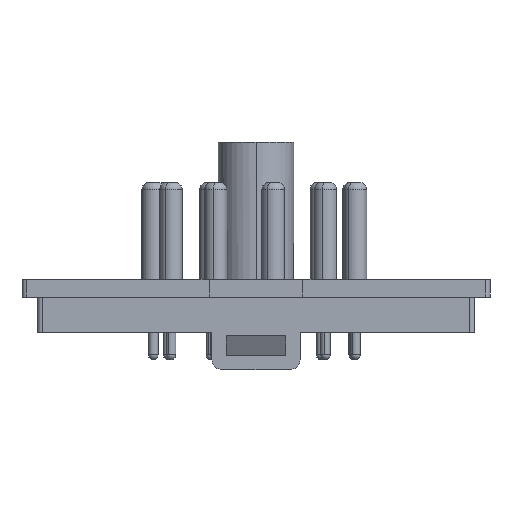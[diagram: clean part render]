
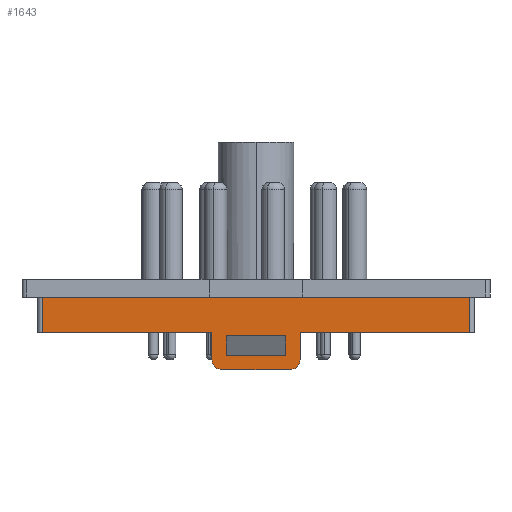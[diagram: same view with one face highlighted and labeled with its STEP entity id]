
A CAD part, left-side view. The second image highlights one B-rep face of the part: STEP entity #1643.
In plain terms, the highlighted planar face has unit normal (-1, 0, 0).
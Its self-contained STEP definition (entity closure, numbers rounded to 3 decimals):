
#3 = VECTOR ( 'NONE', #4801, 1000. ) ;
#208 = ORIENTED_EDGE ( 'NONE', *, *, #2036, .F. ) ;
#280 = EDGE_LOOP ( 'NONE', ( #1553, #2104, #898, #2020 ) ) ;
#318 = VECTOR ( 'NONE', #2599, 1000. ) ;
#332 = LINE ( 'NONE', #2306, #3 ) ;
#381 = LINE ( 'NONE', #1305, #318 ) ;
#604 = CARTESIAN_POINT ( 'NONE',  ( -22.35, -3.05, -7.75 ) ) ;
#798 = DIRECTION ( 'NONE',  ( 0., 0., 1. ) ) ;
#834 = PLANE ( 'NONE',  #2949 ) ;
#842 = ORIENTED_EDGE ( 'NONE', *, *, #3797, .T. ) ;
#843 = CARTESIAN_POINT ( 'NONE',  ( -22.35, -3.5, -8.2 ) ) ;
#898 = ORIENTED_EDGE ( 'NONE', *, *, #4008, .T. ) ;
#917 = DIRECTION ( 'NONE',  ( 0., 0., -1. ) ) ;
#990 = AXIS2_PLACEMENT_3D ( 'NONE', #2470, #5345, #2912 ) ;
#1026 = VECTOR ( 'NONE', #3991, 1000. ) ;
#1188 = CIRCLE ( 'NONE', #990, 1. ) ;
#1261 = DIRECTION ( 'NONE',  ( 0., 0., 1. ) ) ;
#1289 = CARTESIAN_POINT ( 'NONE',  ( -22.35, -3.05, -5.75 ) ) ;
#1305 = CARTESIAN_POINT ( 'NONE',  ( -22.35, 4.5, -1.8 ) ) ;
#1315 = EDGE_CURVE ( 'NONE', #2667, #2471, #4127, .T. ) ;
#1410 = CARTESIAN_POINT ( 'NONE',  ( -22.35, -21.85, -5.4 ) ) ;
#1425 = LINE ( 'NONE', #604, #1026 ) ;
#1553 = ORIENTED_EDGE ( 'NONE', *, *, #3563, .F. ) ;
#1569 = VERTEX_POINT ( 'NONE', #4952 ) ;
#1579 = VERTEX_POINT ( 'NONE', #4565 ) ;
#1642 = CARTESIAN_POINT ( 'NONE',  ( -22.35, -3.05, -7.75 ) ) ;
#1643 = ADVANCED_FACE ( 'NONE', ( #2877, #2734 ), #834, .F. ) ;
#1653 = VERTEX_POINT ( 'NONE', #1716 ) ;
#1664 = CIRCLE ( 'NONE', #2785, 1. ) ;
#1700 = CARTESIAN_POINT ( 'NONE',  ( -22.35, 3.05, -5.75 ) ) ;
#1711 = CARTESIAN_POINT ( 'NONE',  ( -22.35, -21.85, -1.8 ) ) ;
#1713 = VERTEX_POINT ( 'NONE', #3477 ) ;
#1714 = ORIENTED_EDGE ( 'NONE', *, *, #2622, .T. ) ;
#1716 = CARTESIAN_POINT ( 'NONE',  ( -22.35, 3.5, -9.2 ) ) ;
#1763 = CARTESIAN_POINT ( 'NONE',  ( -22.35, 21.85, -5.4 ) ) ;
#1863 = VECTOR ( 'NONE', #5298, 1000. ) ;
#1920 = CARTESIAN_POINT ( 'NONE',  ( -22.35, -3.05, -5.75 ) ) ;
#2020 = ORIENTED_EDGE ( 'NONE', *, *, #4822, .F. ) ;
#2036 = EDGE_CURVE ( 'NONE', #1653, #2578, #1188, .T. ) ;
#2101 = ORIENTED_EDGE ( 'NONE', *, *, #5271, .T. ) ;
#2104 = ORIENTED_EDGE ( 'NONE', *, *, #3842, .T. ) ;
#2166 = LINE ( 'NONE', #1410, #2375 ) ;
#2181 = VERTEX_POINT ( 'NONE', #1700 ) ;
#2210 = VECTOR ( 'NONE', #4754, 1000. ) ;
#2216 = ORIENTED_EDGE ( 'NONE', *, *, #4613, .F. ) ;
#2240 = VERTEX_POINT ( 'NONE', #1289 ) ;
#2259 = EDGE_CURVE ( 'NONE', #2578, #2667, #381, .T. ) ;
#2306 = CARTESIAN_POINT ( 'NONE',  ( -22.35, 3.5, -9.2 ) ) ;
#2308 = VECTOR ( 'NONE', #2694, 1000. ) ;
#2349 = LINE ( 'NONE', #3935, #2210 ) ;
#2375 = VECTOR ( 'NONE', #3960, 1000. ) ;
#2391 = EDGE_LOOP ( 'NONE', ( #2216, #842, #2101, #1714, #3196, #3461, #208, #4418, #4884, #5155 ) ) ;
#2397 = VERTEX_POINT ( 'NONE', #5340 ) ;
#2456 = VECTOR ( 'NONE', #4555, 1000. ) ;
#2470 = CARTESIAN_POINT ( 'NONE',  ( -22.35, 3.5, -8.2 ) ) ;
#2471 = VERTEX_POINT ( 'NONE', #2515 ) ;
#2515 = CARTESIAN_POINT ( 'NONE',  ( -22.35, 21.85, -5.4 ) ) ;
#2525 = VERTEX_POINT ( 'NONE', #4648 ) ;
#2531 = VERTEX_POINT ( 'NONE', #1711 ) ;
#2565 = DIRECTION ( 'NONE',  ( 0., 0., -1. ) ) ;
#2578 = VERTEX_POINT ( 'NONE', #4270 ) ;
#2599 = DIRECTION ( 'NONE',  ( 0., 0., 1. ) ) ;
#2607 = VERTEX_POINT ( 'NONE', #4697 ) ;
#2622 = EDGE_CURVE ( 'NONE', #2525, #2471, #3436, .T. ) ;
#2667 = VERTEX_POINT ( 'NONE', #4306 ) ;
#2694 = DIRECTION ( 'NONE',  ( 0., 0., -1. ) ) ;
#2713 = VERTEX_POINT ( 'NONE', #5150 ) ;
#2715 = LINE ( 'NONE', #4765, #2308 ) ;
#2734 = FACE_BOUND ( 'NONE', #280, .T. ) ;
#2785 = AXIS2_PLACEMENT_3D ( 'NONE', #843, #3826, #1261 ) ;
#2798 = DIRECTION ( 'NONE',  ( 0., 1., 0. ) ) ;
#2877 = FACE_OUTER_BOUND ( 'NONE', #2391, .T. ) ;
#2882 = LINE ( 'NONE', #4904, #1863 ) ;
#2912 = DIRECTION ( 'NONE',  ( 0., 0., -1. ) ) ;
#2949 = AXIS2_PLACEMENT_3D ( 'NONE', #4225, #5033, #2565 ) ;
#3120 = CARTESIAN_POINT ( 'NONE',  ( -22.35, 22.35, -5.4 ) ) ;
#3196 = ORIENTED_EDGE ( 'NONE', *, *, #1315, .F. ) ;
#3381 = VECTOR ( 'NONE', #917, 1000. ) ;
#3399 = VECTOR ( 'NONE', #2798, 1000. ) ;
#3436 = LINE ( 'NONE', #1763, #3381 ) ;
#3461 = ORIENTED_EDGE ( 'NONE', *, *, #2259, .F. ) ;
#3477 = CARTESIAN_POINT ( 'NONE',  ( -22.35, -3.05, -7.75 ) ) ;
#3563 = EDGE_CURVE ( 'NONE', #1713, #2240, #4352, .T. ) ;
#3765 = EDGE_CURVE ( 'NONE', #2713, #2397, #2715, .T. ) ;
#3785 = CARTESIAN_POINT ( 'NONE',  ( -22.35, 3.05, -7.75 ) ) ;
#3797 = EDGE_CURVE ( 'NONE', #1579, #2531, #2166, .T. ) ;
#3826 = DIRECTION ( 'NONE',  ( 1., 0., 0. ) ) ;
#3842 = EDGE_CURVE ( 'NONE', #1713, #1569, #1425, .T. ) ;
#3935 = CARTESIAN_POINT ( 'NONE',  ( -22.35, 22.35, -5.4 ) ) ;
#3959 = DIRECTION ( 'NONE',  ( 0., 1., 0. ) ) ;
#3960 = DIRECTION ( 'NONE',  ( 0., 0., 1. ) ) ;
#3991 = DIRECTION ( 'NONE',  ( 0., 1., 0. ) ) ;
#4008 = EDGE_CURVE ( 'NONE', #1569, #2181, #4501, .T. ) ;
#4058 = VECTOR ( 'NONE', #3959, 1000. ) ;
#4127 = LINE ( 'NONE', #3120, #4058 ) ;
#4222 = LINE ( 'NONE', #1920, #3399 ) ;
#4225 = CARTESIAN_POINT ( 'NONE',  ( -22.35, 22.35, -5.4 ) ) ;
#4270 = CARTESIAN_POINT ( 'NONE',  ( -22.35, 4.5, -8.2 ) ) ;
#4306 = CARTESIAN_POINT ( 'NONE',  ( -22.35, 4.5, -5.4 ) ) ;
#4352 = LINE ( 'NONE', #1642, #2456 ) ;
#4373 = VECTOR ( 'NONE', #798, 1000. ) ;
#4418 = ORIENTED_EDGE ( 'NONE', *, *, #4726, .F. ) ;
#4501 = LINE ( 'NONE', #3785, #4373 ) ;
#4555 = DIRECTION ( 'NONE',  ( 0., 0., 1. ) ) ;
#4565 = CARTESIAN_POINT ( 'NONE',  ( -22.35, -21.85, -5.4 ) ) ;
#4613 = EDGE_CURVE ( 'NONE', #1579, #2713, #2349, .T. ) ;
#4648 = CARTESIAN_POINT ( 'NONE',  ( -22.35, 21.85, -1.8 ) ) ;
#4697 = CARTESIAN_POINT ( 'NONE',  ( -22.35, -3.5, -9.2 ) ) ;
#4726 = EDGE_CURVE ( 'NONE', #2607, #1653, #332, .T. ) ;
#4754 = DIRECTION ( 'NONE',  ( 0., 1., 0. ) ) ;
#4765 = CARTESIAN_POINT ( 'NONE',  ( -22.35, -4.5, -1.8 ) ) ;
#4801 = DIRECTION ( 'NONE',  ( 0., 1., 0. ) ) ;
#4822 = EDGE_CURVE ( 'NONE', #2240, #2181, #4222, .T. ) ;
#4884 = ORIENTED_EDGE ( 'NONE', *, *, #5023, .F. ) ;
#4904 = CARTESIAN_POINT ( 'NONE',  ( -22.35, 22.35, -1.8 ) ) ;
#4952 = CARTESIAN_POINT ( 'NONE',  ( -22.35, 3.05, -7.75 ) ) ;
#5023 = EDGE_CURVE ( 'NONE', #2397, #2607, #1664, .T. ) ;
#5033 = DIRECTION ( 'NONE',  ( 1., 0., 0. ) ) ;
#5150 = CARTESIAN_POINT ( 'NONE',  ( -22.35, -4.5, -5.4 ) ) ;
#5155 = ORIENTED_EDGE ( 'NONE', *, *, #3765, .F. ) ;
#5271 = EDGE_CURVE ( 'NONE', #2531, #2525, #2882, .T. ) ;
#5298 = DIRECTION ( 'NONE',  ( 0., 1., 0. ) ) ;
#5340 = CARTESIAN_POINT ( 'NONE',  ( -22.35, -4.5, -8.2 ) ) ;
#5345 = DIRECTION ( 'NONE',  ( 1., 0., 0. ) ) ;
